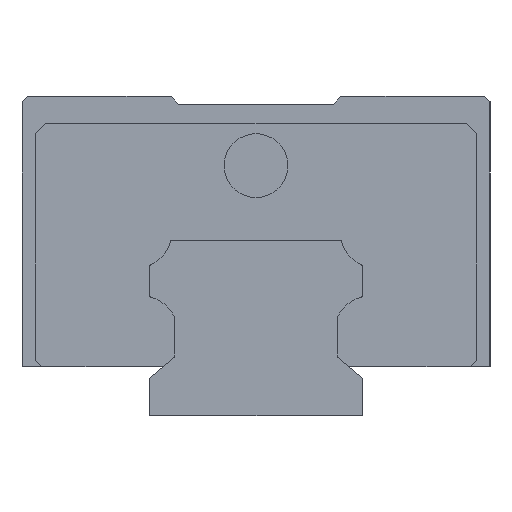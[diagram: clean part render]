
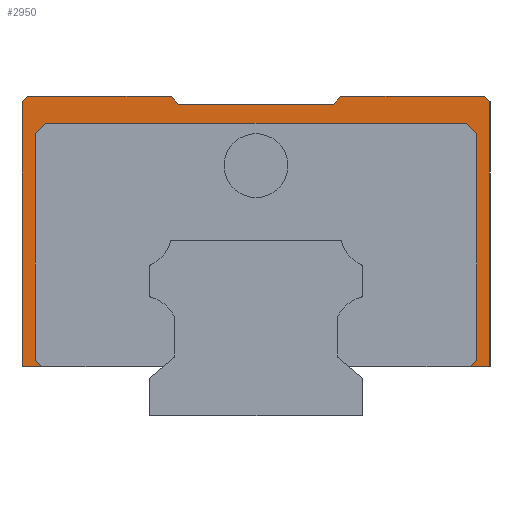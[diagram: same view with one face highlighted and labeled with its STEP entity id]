
A CAD part, left-side view. The second image highlights one B-rep face of the part: STEP entity #2950.
In plain terms, the highlighted planar face has unit normal (-1, 0, 0).
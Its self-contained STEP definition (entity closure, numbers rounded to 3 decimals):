
#96 = VECTOR ( 'NONE', #3383, 1000. ) ;
#108 = LINE ( 'NONE', #5777, #4750 ) ;
#140 = CARTESIAN_POINT ( 'NONE',  ( -39., -22., 30. ) ) ;
#158 = EDGE_LOOP ( 'NONE', ( #1625, #6073, #578, #2972, #3575, #5606, #554, #4027, #3163, #549, #2821, #1763, #4280, #1196, #5746, #2612, #3457, #2717 ) ) ;
#229 = CARTESIAN_POINT ( 'NONE',  ( -39., 7.333, 29.25 ) ) ;
#243 = CARTESIAN_POINT ( 'NONE',  ( -39., 22., 30. ) ) ;
#307 = EDGE_CURVE ( 'NONE', #5826, #4005, #3674, .T. ) ;
#358 = LINE ( 'NONE', #1352, #763 ) ;
#360 = LINE ( 'NONE', #2690, #2764 ) ;
#421 = CARTESIAN_POINT ( 'NONE',  ( -39., 20.15, 4.6 ) ) ;
#438 = EDGE_CURVE ( 'NONE', #3554, #4338, #3878, .T. ) ;
#549 = ORIENTED_EDGE ( 'NONE', *, *, #2661, .T. ) ;
#554 = ORIENTED_EDGE ( 'NONE', *, *, #3010, .F. ) ;
#578 = ORIENTED_EDGE ( 'NONE', *, *, #5886, .F. ) ;
#622 = CARTESIAN_POINT ( 'NONE',  ( -39., 20.75, 5.2 ) ) ;
#719 = EDGE_CURVE ( 'NONE', #5850, #2877, #4680, .T. ) ;
#763 = VECTOR ( 'NONE', #3683, 1000. ) ;
#779 = VECTOR ( 'NONE', #4708, 1000. ) ;
#781 = LINE ( 'NONE', #1712, #5332 ) ;
#783 = VECTOR ( 'NONE', #4452, 1000. ) ;
#822 = CARTESIAN_POINT ( 'NONE',  ( -39., -19.75, 27.5 ) ) ;
#845 = CARTESIAN_POINT ( 'NONE',  ( -39., 9., 4.6 ) ) ;
#908 = LINE ( 'NONE', #4283, #4400 ) ;
#941 = EDGE_CURVE ( 'NONE', #3554, #5180, #3066, .T. ) ;
#965 = CARTESIAN_POINT ( 'NONE',  ( -39., -22., 4.6 ) ) ;
#1065 = VERTEX_POINT ( 'NONE', #6035 ) ;
#1066 = DIRECTION ( 'NONE',  ( 0., 0., -1. ) ) ;
#1146 = VERTEX_POINT ( 'NONE', #5139 ) ;
#1164 = DIRECTION ( 'NONE',  ( 1., 0., 0. ) ) ;
#1196 = ORIENTED_EDGE ( 'NONE', *, *, #6092, .T. ) ;
#1221 = DIRECTION ( 'NONE',  ( 0., 0.643, 0.766 ) ) ;
#1293 = CARTESIAN_POINT ( 'NONE',  ( -39., 7.333, 29.25 ) ) ;
#1296 = EDGE_CURVE ( 'NONE', #4371, #1146, #108, .T. ) ;
#1323 = LINE ( 'NONE', #3307, #2250 ) ;
#1352 = CARTESIAN_POINT ( 'NONE',  ( -39., -7.333, 29.25 ) ) ;
#1374 = AXIS2_PLACEMENT_3D ( 'NONE', #140, #1164, #2034 ) ;
#1381 = DIRECTION ( 'NONE',  ( 0., 0.707, -0.707 ) ) ;
#1394 = CARTESIAN_POINT ( 'NONE',  ( -39., -7.333, 29.25 ) ) ;
#1584 = DIRECTION ( 'NONE',  ( 0., 0., -1. ) ) ;
#1598 = VECTOR ( 'NONE', #2072, 1000. ) ;
#1625 = ORIENTED_EDGE ( 'NONE', *, *, #3264, .F. ) ;
#1655 = VERTEX_POINT ( 'NONE', #1874 ) ;
#1682 = CARTESIAN_POINT ( 'NONE',  ( -39., 7.963, 30. ) ) ;
#1712 = CARTESIAN_POINT ( 'NONE',  ( -39., 11.775, -3.775 ) ) ;
#1763 = ORIENTED_EDGE ( 'NONE', *, *, #3861, .T. ) ;
#1874 = CARTESIAN_POINT ( 'NONE',  ( -39., -20.75, 5.2 ) ) ;
#1922 = VECTOR ( 'NONE', #1584, 1000. ) ;
#1943 = LINE ( 'NONE', #2824, #3770 ) ;
#1953 = EDGE_CURVE ( 'NONE', #1655, #2071, #908, .T. ) ;
#1977 = CARTESIAN_POINT ( 'NONE',  ( -39., 22., 4.6 ) ) ;
#2034 = DIRECTION ( 'NONE',  ( 0., 1., 0. ) ) ;
#2040 = VERTEX_POINT ( 'NONE', #622 ) ;
#2071 = VERTEX_POINT ( 'NONE', #5302 ) ;
#2072 = DIRECTION ( 'NONE',  ( 0., -1., 0. ) ) ;
#2122 = EDGE_CURVE ( 'NONE', #1065, #2040, #5431, .T. ) ;
#2250 = VECTOR ( 'NONE', #1381, 1000. ) ;
#2301 = LINE ( 'NONE', #5618, #3458 ) ;
#2327 = CARTESIAN_POINT ( 'NONE',  ( -39., -22., 27.5 ) ) ;
#2508 = CARTESIAN_POINT ( 'NONE',  ( -39., 21.5, 30. ) ) ;
#2525 = VERTEX_POINT ( 'NONE', #3474 ) ;
#2557 = CARTESIAN_POINT ( 'NONE',  ( -39., -33.775, 18.225 ) ) ;
#2612 = ORIENTED_EDGE ( 'NONE', *, *, #438, .T. ) ;
#2661 = EDGE_CURVE ( 'NONE', #4371, #4832, #5021, .T. ) ;
#2690 = CARTESIAN_POINT ( 'NONE',  ( -39., -19.625, 27.625 ) ) ;
#2717 = ORIENTED_EDGE ( 'NONE', *, *, #307, .F. ) ;
#2721 = CARTESIAN_POINT ( 'NONE',  ( -39., 22., 29.5 ) ) ;
#2764 = VECTOR ( 'NONE', #4574, 1000. ) ;
#2804 = DIRECTION ( 'NONE',  ( 0., 1., 0. ) ) ;
#2821 = ORIENTED_EDGE ( 'NONE', *, *, #3971, .F. ) ;
#2824 = CARTESIAN_POINT ( 'NONE',  ( -39., 22., 30. ) ) ;
#2877 = VERTEX_POINT ( 'NONE', #5350 ) ;
#2950 = ADVANCED_FACE ( 'NONE', ( #5449 ), #5842, .F. ) ;
#2959 = CARTESIAN_POINT ( 'NONE',  ( -39., -20.15, 4.6 ) ) ;
#2972 = ORIENTED_EDGE ( 'NONE', *, *, #719, .F. ) ;
#3010 = EDGE_CURVE ( 'NONE', #3339, #1655, #4944, .T. ) ;
#3066 = LINE ( 'NONE', #243, #1598 ) ;
#3114 = EDGE_CURVE ( 'NONE', #2071, #5850, #360, .T. ) ;
#3145 = VECTOR ( 'NONE', #3885, 1000. ) ;
#3163 = ORIENTED_EDGE ( 'NONE', *, *, #1296, .F. ) ;
#3264 = EDGE_CURVE ( 'NONE', #2040, #5826, #781, .T. ) ;
#3307 = CARTESIAN_POINT ( 'NONE',  ( -39., -2.375, 49.625 ) ) ;
#3339 = VERTEX_POINT ( 'NONE', #2959 ) ;
#3362 = LINE ( 'NONE', #965, #3145 ) ;
#3383 = DIRECTION ( 'NONE',  ( 0., 0.707, -0.707 ) ) ;
#3389 = EDGE_CURVE ( 'NONE', #4005, #4338, #2301, .T. ) ;
#3441 = CARTESIAN_POINT ( 'NONE',  ( -39., 21.5, 30. ) ) ;
#3457 = ORIENTED_EDGE ( 'NONE', *, *, #3389, .F. ) ;
#3458 = VECTOR ( 'NONE', #6048, 1000. ) ;
#3474 = CARTESIAN_POINT ( 'NONE',  ( -39., -7.963, 30. ) ) ;
#3554 = VERTEX_POINT ( 'NONE', #2508 ) ;
#3575 = ORIENTED_EDGE ( 'NONE', *, *, #3114, .F. ) ;
#3674 = LINE ( 'NONE', #845, #4936 ) ;
#3683 = DIRECTION ( 'NONE',  ( 0., 1., 0. ) ) ;
#3746 = CARTESIAN_POINT ( 'NONE',  ( -39., -22., 29.5 ) ) ;
#3770 = VECTOR ( 'NONE', #4791, 1000. ) ;
#3861 = EDGE_CURVE ( 'NONE', #2525, #3902, #4121, .T. ) ;
#3878 = LINE ( 'NONE', #3441, #96 ) ;
#3885 = DIRECTION ( 'NONE',  ( 0., 1., 0. ) ) ;
#3902 = VERTEX_POINT ( 'NONE', #1394 ) ;
#3930 = VECTOR ( 'NONE', #1221, 1000. ) ;
#3971 = EDGE_CURVE ( 'NONE', #2525, #4832, #1943, .T. ) ;
#4005 = VERTEX_POINT ( 'NONE', #1977 ) ;
#4027 = ORIENTED_EDGE ( 'NONE', *, *, #5954, .F. ) ;
#4121 = LINE ( 'NONE', #4678, #4453 ) ;
#4280 = ORIENTED_EDGE ( 'NONE', *, *, #5861, .T. ) ;
#4283 = CARTESIAN_POINT ( 'NONE',  ( -39., -20.75, 30. ) ) ;
#4334 = VECTOR ( 'NONE', #5518, 1000. ) ;
#4338 = VERTEX_POINT ( 'NONE', #2721 ) ;
#4371 = VERTEX_POINT ( 'NONE', #3746 ) ;
#4374 = DIRECTION ( 'NONE',  ( 0., 0., 1. ) ) ;
#4400 = VECTOR ( 'NONE', #4374, 1000. ) ;
#4452 = DIRECTION ( 'NONE',  ( 0., -0.707, 0.707 ) ) ;
#4453 = VECTOR ( 'NONE', #5176, 1000. ) ;
#4574 = DIRECTION ( 'NONE',  ( 0., 0.707, 0.707 ) ) ;
#4678 = CARTESIAN_POINT ( 'NONE',  ( -39., -7.963, 30. ) ) ;
#4680 = LINE ( 'NONE', #2327, #779 ) ;
#4708 = DIRECTION ( 'NONE',  ( 0., 1., 0. ) ) ;
#4748 = CARTESIAN_POINT ( 'NONE',  ( -39., -21.5, 30. ) ) ;
#4750 = VECTOR ( 'NONE', #1066, 1000. ) ;
#4791 = DIRECTION ( 'NONE',  ( 0., -1., 0. ) ) ;
#4832 = VERTEX_POINT ( 'NONE', #4748 ) ;
#4872 = DIRECTION ( 'NONE',  ( 0., -0.707, -0.707 ) ) ;
#4936 = VECTOR ( 'NONE', #2804, 1000. ) ;
#4944 = LINE ( 'NONE', #2557, #783 ) ;
#5021 = LINE ( 'NONE', #5082, #4334 ) ;
#5082 = CARTESIAN_POINT ( 'NONE',  ( -39., -22., 29.5 ) ) ;
#5139 = CARTESIAN_POINT ( 'NONE',  ( -39., -22., 4.6 ) ) ;
#5176 = DIRECTION ( 'NONE',  ( 0., 0.643, -0.766 ) ) ;
#5180 = VERTEX_POINT ( 'NONE', #1682 ) ;
#5302 = CARTESIAN_POINT ( 'NONE',  ( -39., -20.75, 26.5 ) ) ;
#5332 = VECTOR ( 'NONE', #4872, 1000. ) ;
#5350 = CARTESIAN_POINT ( 'NONE',  ( -39., 19.75, 27.5 ) ) ;
#5431 = LINE ( 'NONE', #5924, #1922 ) ;
#5449 = FACE_OUTER_BOUND ( 'NONE', #158, .T. ) ;
#5518 = DIRECTION ( 'NONE',  ( 0., 0.707, 0.707 ) ) ;
#5606 = ORIENTED_EDGE ( 'NONE', *, *, #1953, .F. ) ;
#5618 = CARTESIAN_POINT ( 'NONE',  ( -39., 22., 4.6 ) ) ;
#5622 = VERTEX_POINT ( 'NONE', #1293 ) ;
#5746 = ORIENTED_EDGE ( 'NONE', *, *, #941, .F. ) ;
#5777 = CARTESIAN_POINT ( 'NONE',  ( -39., -22., 28. ) ) ;
#5826 = VERTEX_POINT ( 'NONE', #421 ) ;
#5842 = PLANE ( 'NONE',  #1374 ) ;
#5850 = VERTEX_POINT ( 'NONE', #822 ) ;
#5861 = EDGE_CURVE ( 'NONE', #3902, #5622, #358, .T. ) ;
#5862 = LINE ( 'NONE', #229, #3930 ) ;
#5886 = EDGE_CURVE ( 'NONE', #2877, #1065, #1323, .T. ) ;
#5924 = CARTESIAN_POINT ( 'NONE',  ( -39., 20.75, 30. ) ) ;
#5954 = EDGE_CURVE ( 'NONE', #1146, #3339, #3362, .T. ) ;
#6035 = CARTESIAN_POINT ( 'NONE',  ( -39., 20.75, 26.5 ) ) ;
#6048 = DIRECTION ( 'NONE',  ( 0., 0., 1. ) ) ;
#6073 = ORIENTED_EDGE ( 'NONE', *, *, #2122, .F. ) ;
#6092 = EDGE_CURVE ( 'NONE', #5622, #5180, #5862, .T. ) ;
